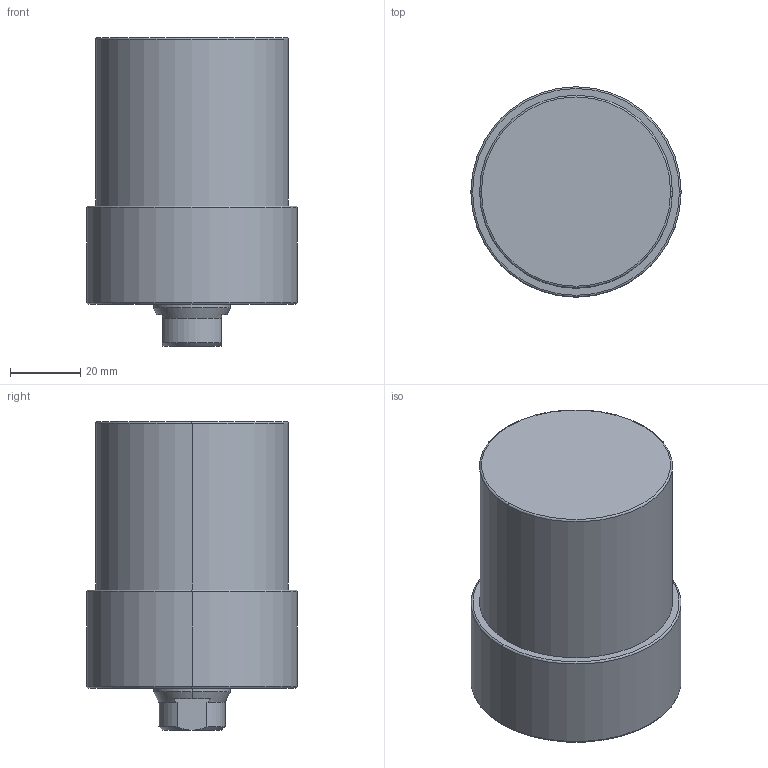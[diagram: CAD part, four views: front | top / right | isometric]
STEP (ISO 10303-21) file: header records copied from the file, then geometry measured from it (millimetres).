
FILE_DESCRIPTION (( 'STEP AP203' ), '1' );
FILE_NAME ('CLLU055-CA-035.STEP', '2017-05-12T11:06:32', ( '' ), ( '' ), 'SwSTEP 2.0', 'SolidWorks 2015', '' );
FILE_SCHEMA (( 'CONFIG_CONTROL_DESIGN' ));
Length unit declared in the file: millimetre
Products named in the file (1): CLLU055-CA-035
Bounding box: 60 x 60 x 88 mm (x, y, z)
Volume: 193540.8 mm3; surface area: 21616.4 mm2
Topology: 1 solids, 1 shells, 62 faces, 138 edges, 77 vertices
Faces by surface type: cone 24, cylinder 22, plane 10, torus 6
Entity records: 1745 total; most frequent: DIRECTION 318, CARTESIAN_POINT 308, ORIENTED_EDGE 256, AXIS2_PLACEMENT_3D 135, EDGE_CURVE 128, VERTEX_POINT 77, CIRCLE 72, EDGE_LOOP 71
